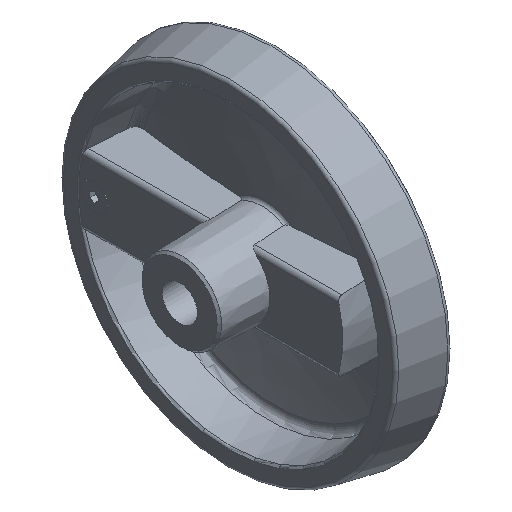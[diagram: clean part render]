
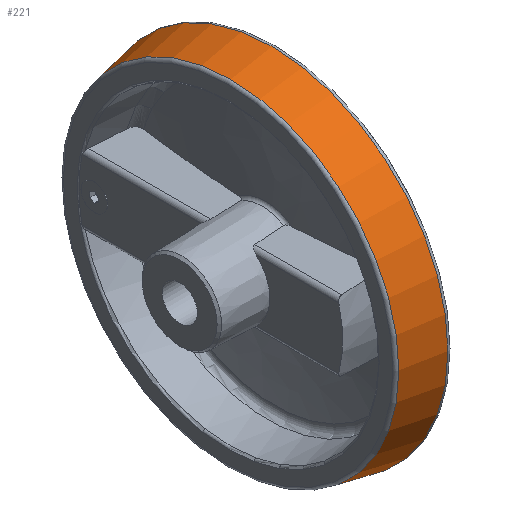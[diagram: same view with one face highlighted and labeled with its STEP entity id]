
A CAD part, isometric view. The second image highlights one B-rep face of the part: STEP entity #221.
In plain terms, the highlighted conical face has half-angle 10.883 degrees and reference radius 76.371 mm.
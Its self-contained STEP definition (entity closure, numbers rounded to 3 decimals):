
#221 = ADVANCED_FACE( '', ( #401, #402 ), #403, .T. );
#401 = FACE_OUTER_BOUND( '', #714, .T. );
#402 = FACE_BOUND( '', #715, .T. );
#403 = CONICAL_SURFACE( '', #716, 76.372, 0.19 );
#714 = EDGE_LOOP( '', ( #1332 ) );
#715 = EDGE_LOOP( '', ( #1333 ) );
#716 = AXIS2_PLACEMENT_3D( '', #1334, #1335, #1336 );
#1332 = ORIENTED_EDGE( '', *, *, #1868, .F. );
#1333 = ORIENTED_EDGE( '', *, *, #1867, .T. );
#1334 = CARTESIAN_POINT( '', ( 23.217, 0., 0. ) );
#1335 = DIRECTION( '', ( 1., 0., 0. ) );
#1336 = DIRECTION( '', ( 0., 0., -1. ) );
#1867 = EDGE_CURVE( '', #2215, #2215, #2216, .T. );
#1868 = EDGE_CURVE( '', #2217, #2217, #2218, .T. );
#2215 = VERTEX_POINT( '', #3091 );
#2216 = CIRCLE( '', #3092, 76.372 );
#2217 = VERTEX_POINT( '', #3093 );
#2218 = CIRCLE( '', #3094, 79.973 );
#3091 = CARTESIAN_POINT( '', ( 23.217, 0., -76.372 ) );
#3092 = AXIS2_PLACEMENT_3D( '', #3495, #3496, #3497 );
#3093 = CARTESIAN_POINT( '', ( 41.95, 0., -79.973 ) );
#3094 = AXIS2_PLACEMENT_3D( '', #3498, #3499, #3500 );
#3495 = CARTESIAN_POINT( '', ( 23.217, 0., 0. ) );
#3496 = DIRECTION( '', ( 1., 0., 0. ) );
#3497 = DIRECTION( '', ( 0., 0., -1. ) );
#3498 = CARTESIAN_POINT( '', ( 41.95, 0., 0. ) );
#3499 = DIRECTION( '', ( 1., 0., 0. ) );
#3500 = DIRECTION( '', ( 0., 0., -1. ) );
